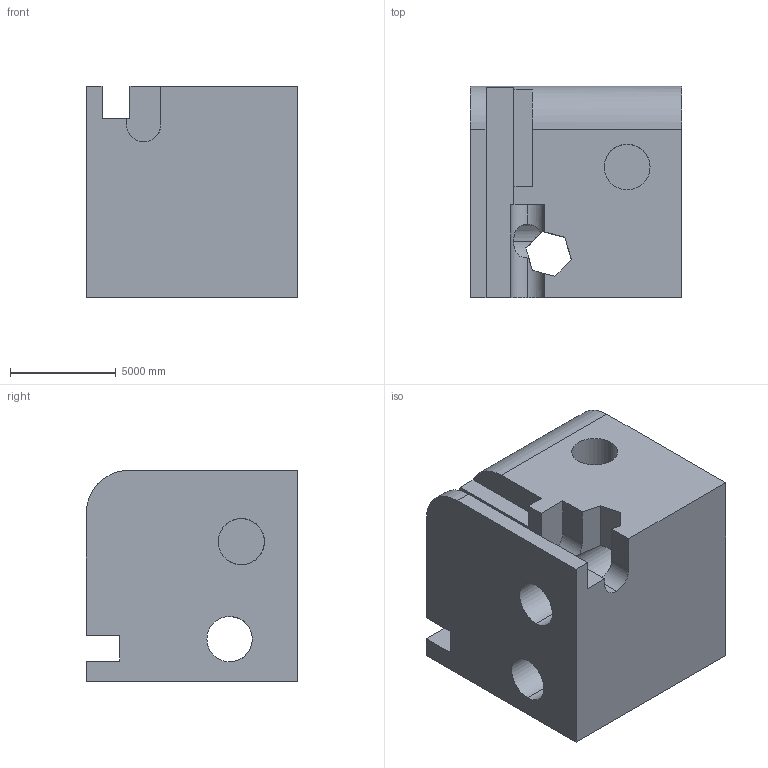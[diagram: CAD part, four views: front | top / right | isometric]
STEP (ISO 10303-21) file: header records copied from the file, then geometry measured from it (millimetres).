
FILE_DESCRIPTION (( 'STEP AP203' ), '1' );
FILE_NAME ('907.STEP', '2022-07-29T14:11:46', ( 'user' ), ( '' ), 'SwSTEP 2.0', 'SolidWorks 2021', '' );
FILE_SCHEMA (( 'CONFIG_CONTROL_DESIGN' ));
Length unit declared in the file: centimetre
Products named in the file (1): 907
Bounding box: 10000 x 10000 x 10000 mm (x, y, z)
Volume: 807872815286.6 mm3; surface area: 842655134.6 mm2
Topology: 1 solids, 1 shells, 48 faces, 144 edges, 96 vertices
Faces by surface type: plane 37, cylinder 11
Entity records: 1894 total; most frequent: CARTESIAN_POINT 552, ORIENTED_EDGE 288, DIRECTION 238, EDGE_CURVE 144, LINE 98, VECTOR 98, VERTEX_POINT 96, AXIS2_PLACEMENT_3D 70
